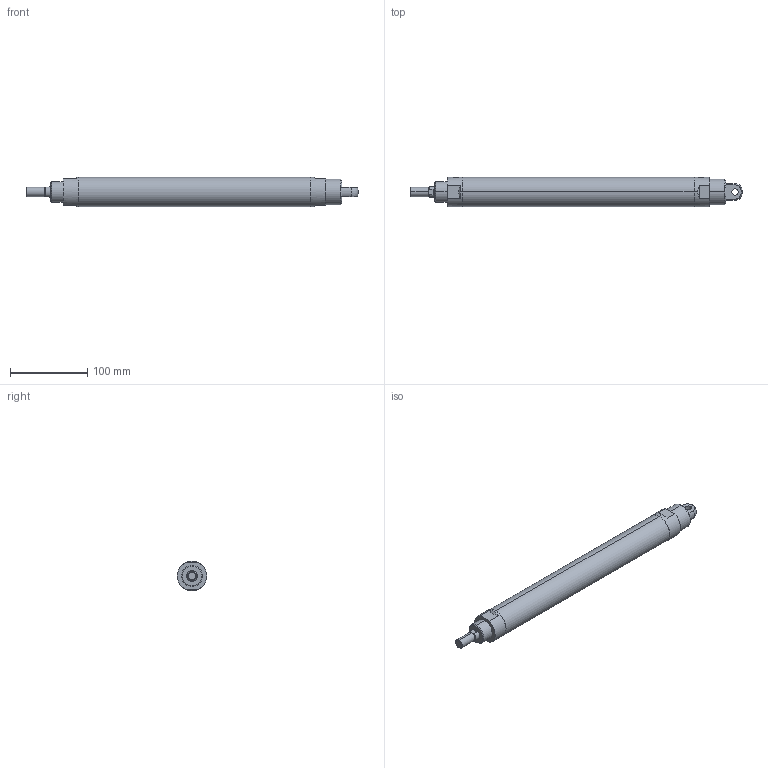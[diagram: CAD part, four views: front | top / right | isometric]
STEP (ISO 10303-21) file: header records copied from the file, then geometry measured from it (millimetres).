
FILE_DESCRIPTION (( 'STEP AP203' ), '1' );
FILE_NAME ('J#2-32-250-C.STEP', '2016-03-08T07:49:39', ( '' ), ( '' ), 'SwSTEP 2.0', 'SolidWorks 2014', '' );
FILE_SCHEMA (( 'CONFIG_CONTROL_DESIGN' ));
Length unit declared in the file: millimetre
Products named in the file (1): J#2-32-250-C
Bounding box: 429 x 38 x 38 mm (x, y, z)
Volume: 408282.6 mm3; surface area: 49492.9 mm2
Topology: 1 solids, 1 shells, 59 faces, 138 edges, 85 vertices
Faces by surface type: cylinder 22, plane 20, cone 15, torus 2
Entity records: 1996 total; most frequent: CARTESIAN_POINT 574, DIRECTION 293, ORIENTED_EDGE 268, EDGE_CURVE 134, AXIS2_PLACEMENT_3D 118, VERTEX_POINT 85, EDGE_LOOP 69, ADVANCED_FACE 59
